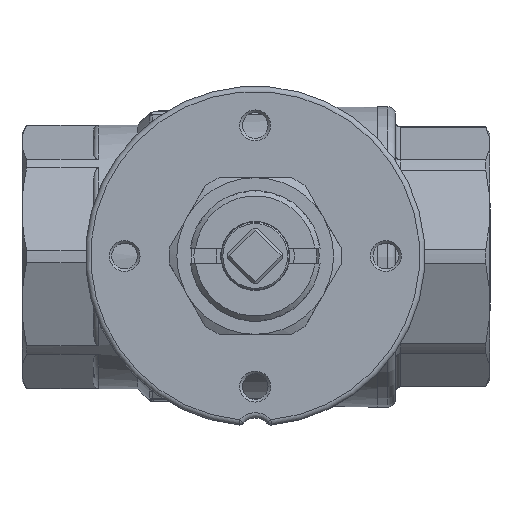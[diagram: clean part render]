
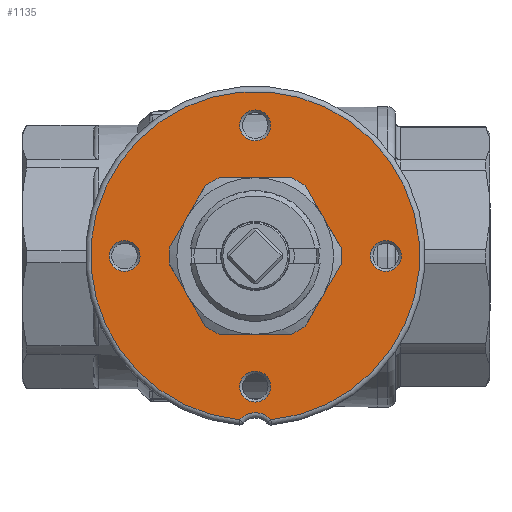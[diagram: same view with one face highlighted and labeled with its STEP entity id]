
A CAD part, top view. The second image highlights one B-rep face of the part: STEP entity #1135.
In plain terms, the highlighted planar face has unit normal (0, 0, 1) as drawn and (-1, 0, 0) by its records, which use the part's own axes.
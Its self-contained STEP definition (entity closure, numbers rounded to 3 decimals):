
#1051=CARTESIAN_POINT('',(-12.5,2.959,-25.0));
#1052=VERTEX_POINT('',#1051);
#1053=CARTESIAN_POINT('',(-12.5,0.,-25.0));
#1054=DIRECTION('',(-1.0,0.0,0.0));
#1055=DIRECTION('',(0.0,-1.0,0.0));
#1056=AXIS2_PLACEMENT_3D('',#1053,#1054,#1055);
#1057=CIRCLE('',#1056,2.959);
#1058=EDGE_CURVE('',#1052,#1052,#1057,.T.);
#1063=CARTESIAN_POINT('',(-12.5,16.25,0.0));
#1064=DIRECTION('',(-1.0,0.0,0.0));
#1065=DIRECTION('',(0.0,0.0,1.0));
#1066=AXIS2_PLACEMENT_3D('',#1063,#1064,#1065);
#1067=PLANE('',#1066);
#1068=CARTESIAN_POINT('',(-12.5,3.002,31.357));
#1069=VERTEX_POINT('',#1068);
#1070=CARTESIAN_POINT('',(-12.5,-3.002,31.357));
#1071=VERTEX_POINT('',#1070);
#1072=CARTESIAN_POINT('',(-12.5,0.,34.0));
#1073=DIRECTION('',(-1.0,0.0,0.0));
#1074=DIRECTION('',(0.0,0.0,-1.0));
#1075=AXIS2_PLACEMENT_3D('',#1072,#1073,#1074);
#1076=CIRCLE('',#1075,4.0);
#1077=EDGE_CURVE('',#1069,#1071,#1076,.T.);
#1078=ORIENTED_EDGE('',*,*,#1077,.F.);
#1079=CARTESIAN_POINT('',(-12.5,0.,0.0));
#1080=DIRECTION('',(1.0,0.0,0.0));
#1081=DIRECTION('',(0.0,-1.0,0.0));
#1082=AXIS2_PLACEMENT_3D('',#1079,#1080,#1081);
#1083=CIRCLE('',#1082,31.5);
#1084=EDGE_CURVE('',#1071,#1069,#1083,.T.);
#1085=ORIENTED_EDGE('',*,*,#1084,.F.);
#1086=EDGE_LOOP('',(#1078,#1085));
#1087=FACE_OUTER_BOUND('',#1086,.T.);
#1088=CARTESIAN_POINT('',(-12.5,27.958,0.));
#1089=VERTEX_POINT('',#1088);
#1090=CARTESIAN_POINT('',(-12.5,25.0,0.0));
#1091=DIRECTION('',(-1.0,0.0,0.0));
#1092=DIRECTION('',(0.0,-1.0,0.0));
#1093=AXIS2_PLACEMENT_3D('',#1090,#1091,#1092);
#1094=CIRCLE('',#1093,2.958);
#1095=EDGE_CURVE('',#1089,#1089,#1094,.T.);
#1096=ORIENTED_EDGE('',*,*,#1095,.F.);
#1097=EDGE_LOOP('',(#1096));
#1098=FACE_BOUND('',#1097,.T.);
#1099=CARTESIAN_POINT('',(-12.5,2.959,25.0));
#1100=VERTEX_POINT('',#1099);
#1101=CARTESIAN_POINT('',(-12.5,0.,25.0));
#1102=DIRECTION('',(-1.0,0.0,0.0));
#1103=DIRECTION('',(0.0,-1.0,0.0));
#1104=AXIS2_PLACEMENT_3D('',#1101,#1102,#1103);
#1105=CIRCLE('',#1104,2.959);
#1106=EDGE_CURVE('',#1100,#1100,#1105,.T.);
#1107=ORIENTED_EDGE('',*,*,#1106,.F.);
#1108=EDGE_LOOP('',(#1107));
#1109=FACE_BOUND('',#1108,.T.);
#1110=CARTESIAN_POINT('',(-12.5,-12.5,0.));
#1111=VERTEX_POINT('',#1110);
#1112=CARTESIAN_POINT('',(-12.5,0.,0.0));
#1113=DIRECTION('',(1.0,0.0,0.0));
#1114=DIRECTION('',(0.0,1.0,0.0));
#1115=AXIS2_PLACEMENT_3D('',#1112,#1113,#1114);
#1116=CIRCLE('',#1115,12.5);
#1117=EDGE_CURVE('',#1111,#1111,#1116,.T.);
#1118=ORIENTED_EDGE('',*,*,#1117,.T.);
#1119=EDGE_LOOP('',(#1118));
#1120=FACE_BOUND('',#1119,.T.);
#1121=CARTESIAN_POINT('',(-12.5,-22.042,0.));
#1122=VERTEX_POINT('',#1121);
#1123=CARTESIAN_POINT('',(-12.5,-25.0,0.0));
#1124=DIRECTION('',(-1.0,0.0,0.0));
#1125=DIRECTION('',(0.0,-1.0,0.0));
#1126=AXIS2_PLACEMENT_3D('',#1123,#1124,#1125);
#1127=CIRCLE('',#1126,2.958);
#1128=EDGE_CURVE('',#1122,#1122,#1127,.T.);
#1129=ORIENTED_EDGE('',*,*,#1128,.F.);
#1130=EDGE_LOOP('',(#1129));
#1131=FACE_BOUND('',#1130,.T.);
#1132=ORIENTED_EDGE('',*,*,#1058,.F.);
#1133=EDGE_LOOP('',(#1132));
#1134=FACE_BOUND('',#1133,.T.);
#1135=ADVANCED_FACE('',(#1087,#1098,#1109,#1120,#1131,#1134),#1067,.T.);
